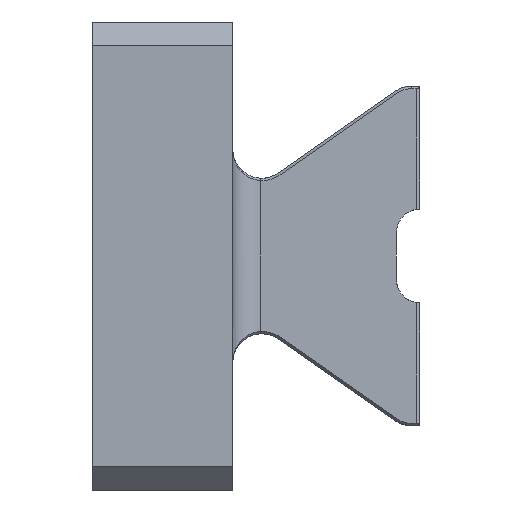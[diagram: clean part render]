
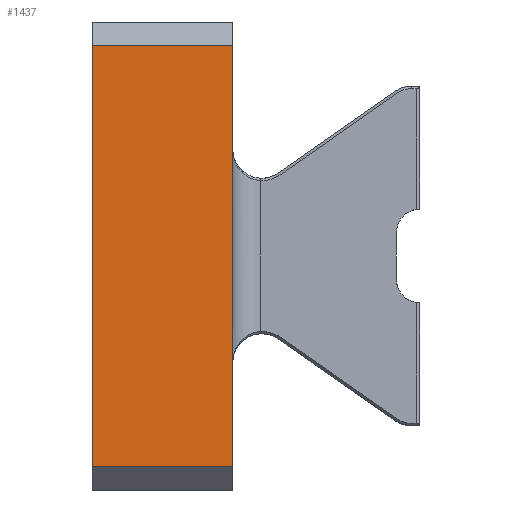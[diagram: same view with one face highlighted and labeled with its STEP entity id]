
A CAD part, left-side view. The second image highlights one B-rep face of the part: STEP entity #1437.
In plain terms, the highlighted planar face has unit normal (-1, 0, 0).
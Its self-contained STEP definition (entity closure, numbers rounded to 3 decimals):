
#81 = CARTESIAN_POINT ( 'NONE',  ( -20., 16., 20. ) ) ;
#476 = DIRECTION ( 'NONE',  ( 0., 0., -1. ) ) ;
#670 = CARTESIAN_POINT ( 'NONE',  ( -20., 28., -18. ) ) ;
#1437 = ADVANCED_FACE ( 'NONE', ( #6811 ), #2308, .F. ) ;
#1964 = LINE ( 'NONE', #9116, #3719 ) ;
#2283 = DIRECTION ( 'NONE',  ( 0., 1., 0. ) ) ;
#2308 = PLANE ( 'NONE',  #6147 ) ;
#3089 = DIRECTION ( 'NONE',  ( 0., 0., -1. ) ) ;
#3132 = DIRECTION ( 'NONE',  ( 0., 0., -1. ) ) ;
#3719 = VECTOR ( 'NONE', #4489, 1000. ) ;
#4137 = CARTESIAN_POINT ( 'NONE',  ( -20., 28., 20. ) ) ;
#4164 = LINE ( 'NONE', #5053, #5035 ) ;
#4250 = LINE ( 'NONE', #4137, #9575 ) ;
#4373 = ORIENTED_EDGE ( 'NONE', *, *, #11492, .F. ) ;
#4449 = VERTEX_POINT ( 'NONE', #4948 ) ;
#4489 = DIRECTION ( 'NONE',  ( 0., -1., 0. ) ) ;
#4698 = DIRECTION ( 'NONE',  ( 1., 0., 0. ) ) ;
#4948 = CARTESIAN_POINT ( 'NONE',  ( -20., 28., 18. ) ) ;
#5035 = VECTOR ( 'NONE', #2283, 1000. ) ;
#5053 = CARTESIAN_POINT ( 'NONE',  ( -20., 28., 18. ) ) ;
#5447 = ORIENTED_EDGE ( 'NONE', *, *, #6668, .T. ) ;
#6134 = ORIENTED_EDGE ( 'NONE', *, *, #6154, .T. ) ;
#6147 = AXIS2_PLACEMENT_3D ( 'NONE', #81, #4698, #3132 ) ;
#6154 = EDGE_CURVE ( 'NONE', #7774, #8620, #1964, .T. ) ;
#6668 = EDGE_CURVE ( 'NONE', #7084, #4449, #4164, .T. ) ;
#6811 = FACE_OUTER_BOUND ( 'NONE', #6989, .T. ) ;
#6889 = EDGE_CURVE ( 'NONE', #4449, #7774, #4250, .T. ) ;
#6953 = LINE ( 'NONE', #9609, #11314 ) ;
#6989 = EDGE_LOOP ( 'NONE', ( #7716, #6134, #4373, #5447 ) ) ;
#7084 = VERTEX_POINT ( 'NONE', #8936 ) ;
#7716 = ORIENTED_EDGE ( 'NONE', *, *, #6889, .T. ) ;
#7774 = VERTEX_POINT ( 'NONE', #670 ) ;
#8620 = VERTEX_POINT ( 'NONE', #11550 ) ;
#8936 = CARTESIAN_POINT ( 'NONE',  ( -20., 16., 18. ) ) ;
#9116 = CARTESIAN_POINT ( 'NONE',  ( -20., 16., -18. ) ) ;
#9575 = VECTOR ( 'NONE', #476, 1000. ) ;
#9609 = CARTESIAN_POINT ( 'NONE',  ( -20., 16., 20. ) ) ;
#11314 = VECTOR ( 'NONE', #3089, 1000. ) ;
#11492 = EDGE_CURVE ( 'NONE', #7084, #8620, #6953, .T. ) ;
#11550 = CARTESIAN_POINT ( 'NONE',  ( -20., 16., -18. ) ) ;
